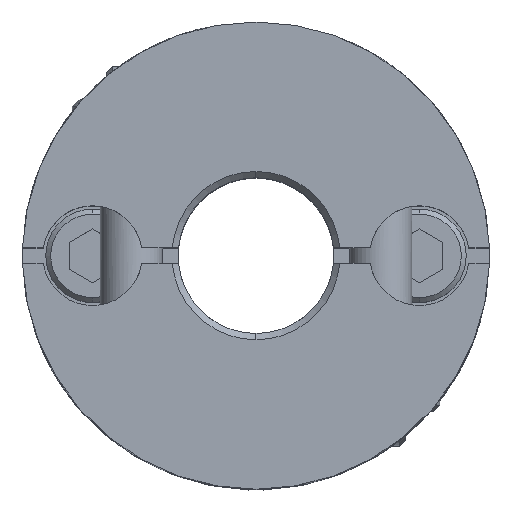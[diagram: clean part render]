
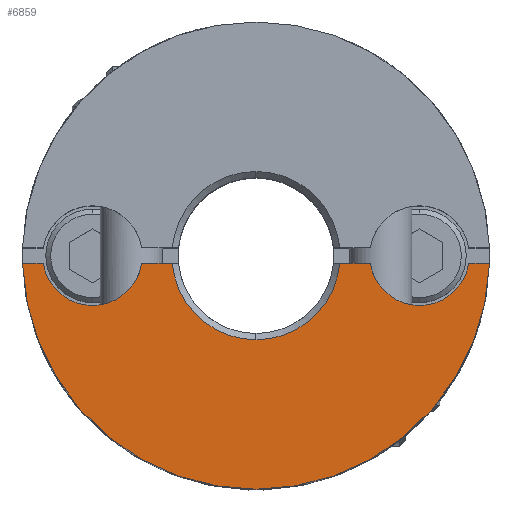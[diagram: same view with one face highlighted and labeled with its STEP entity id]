
A CAD part, top view. The second image highlights one B-rep face of the part: STEP entity #6859.
In plain terms, the highlighted planar face has unit normal (0, 0, 1).
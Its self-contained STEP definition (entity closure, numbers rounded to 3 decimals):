
#622=CARTESIAN_POINT('',(0.,-7.5,8.1));
#623=VERTEX_POINT('',#622);
#630=CARTESIAN_POINT('',(-7.496,-0.25,8.1));
#631=VERTEX_POINT('',#630);
#632=CARTESIAN_POINT('',(0.,0.,8.1));
#633=DIRECTION('',(0.0,0.0,-1.0));
#634=DIRECTION('',(0.0,1.0,0.0));
#635=AXIS2_PLACEMENT_3D('',#632,#633,#634);
#636=CIRCLE('',#635,7.5);
#637=EDGE_CURVE('',#623,#631,#636,.T.);
#983=CARTESIAN_POINT('',(0.,-2.7,8.1));
#984=VERTEX_POINT('',#983);
#1000=CARTESIAN_POINT('',(-2.688,-0.25,8.1));
#1001=VERTEX_POINT('',#1000);
#1015=CARTESIAN_POINT('',(0.,0.,8.1));
#1016=DIRECTION('',(0.0,0.0,1.0));
#1017=DIRECTION('',(0.0,-1.0,0.0));
#1018=AXIS2_PLACEMENT_3D('',#1015,#1016,#1017);
#1019=CIRCLE('',#1018,2.7);
#1020=EDGE_CURVE('',#1001,#984,#1019,.T.);
#1317=CARTESIAN_POINT('',(-5.25,-1.6,8.1));
#1318=VERTEX_POINT('',#1317);
#1334=CARTESIAN_POINT('',(-6.83,-0.25,8.1));
#1335=VERTEX_POINT('',#1334);
#1342=CARTESIAN_POINT('',(-5.25,0.,8.1));
#1343=DIRECTION('',(0.0,0.0,-1.0));
#1344=DIRECTION('',(0.0,1.0,0.0));
#1345=AXIS2_PLACEMENT_3D('',#1342,#1343,#1344);
#1346=CIRCLE('',#1345,1.6);
#1347=EDGE_CURVE('',#1318,#1335,#1346,.T.);
#1687=CARTESIAN_POINT('',(5.25,-1.6,8.1));
#1688=VERTEX_POINT('',#1687);
#1762=CARTESIAN_POINT('',(3.67,-0.25,8.1));
#1763=VERTEX_POINT('',#1762);
#1770=CARTESIAN_POINT('',(5.25,0.,8.1));
#1771=DIRECTION('',(0.0,0.0,-1.0));
#1772=DIRECTION('',(0.0,1.0,0.0));
#1773=AXIS2_PLACEMENT_3D('',#1770,#1771,#1772);
#1774=CIRCLE('',#1773,1.6);
#1775=EDGE_CURVE('',#1688,#1763,#1774,.T.);
#5991=CARTESIAN_POINT('',(6.83,-0.25,8.1));
#5992=VERTEX_POINT('',#5991);
#5993=CARTESIAN_POINT('',(5.25,0.,8.1));
#5994=DIRECTION('',(0.0,0.0,-1.0));
#5995=DIRECTION('',(0.0,1.0,0.0));
#5996=AXIS2_PLACEMENT_3D('',#5993,#5994,#5995);
#5997=CIRCLE('',#5996,1.6);
#5998=EDGE_CURVE('',#5992,#1688,#5997,.T.);
#6407=CARTESIAN_POINT('',(-3.67,-0.25,8.1));
#6408=VERTEX_POINT('',#6407);
#6415=CARTESIAN_POINT('',(-2.688,-0.25,8.1));
#6416=DIRECTION('',(-1.0,0.0,0.0));
#6417=VECTOR('',#6416,0.981);
#6418=LINE('',#6415,#6417);
#6419=EDGE_CURVE('',#1001,#6408,#6418,.T.);
#6531=CARTESIAN_POINT('',(-5.25,0.,8.1));
#6532=DIRECTION('',(0.0,0.0,-1.0));
#6533=DIRECTION('',(0.0,1.0,0.0));
#6534=AXIS2_PLACEMENT_3D('',#6531,#6532,#6533);
#6535=CIRCLE('',#6534,1.6);
#6536=EDGE_CURVE('',#6408,#1318,#6535,.T.);
#6649=CARTESIAN_POINT('',(2.688,-0.25,8.1));
#6650=VERTEX_POINT('',#6649);
#6664=CARTESIAN_POINT('',(3.67,-0.25,8.1));
#6665=DIRECTION('',(-1.0,0.0,0.0));
#6666=VECTOR('',#6665,0.981);
#6667=LINE('',#6664,#6666);
#6668=EDGE_CURVE('',#1763,#6650,#6667,.T.);
#6810=CARTESIAN_POINT('',(0.,0.,8.1));
#6811=DIRECTION('',(0.0,0.0,1.0));
#6812=DIRECTION('',(0.0,-1.0,0.0));
#6813=AXIS2_PLACEMENT_3D('',#6810,#6811,#6812);
#6814=CIRCLE('',#6813,2.7);
#6815=EDGE_CURVE('',#984,#6650,#6814,.T.);
#6822=CARTESIAN_POINT('',(0.,0.682,8.1));
#6823=DIRECTION('',(0.0,0.0,1.0));
#6824=DIRECTION('',(0.0,1.0,0.0));
#6825=AXIS2_PLACEMENT_3D('',#6822,#6823,#6824);
#6826=PLANE('',#6825);
#6827=ORIENTED_EDGE('',*,*,#1020,.F.);
#6828=ORIENTED_EDGE('',*,*,#6419,.T.);
#6829=ORIENTED_EDGE('',*,*,#6536,.T.);
#6830=ORIENTED_EDGE('',*,*,#1347,.T.);
#6831=CARTESIAN_POINT('',(-6.83,-0.25,8.1));
#6832=DIRECTION('',(-1.0,0.0,0.0));
#6833=VECTOR('',#6832,0.665);
#6834=LINE('',#6831,#6833);
#6835=EDGE_CURVE('',#1335,#631,#6834,.T.);
#6836=ORIENTED_EDGE('',*,*,#6835,.T.);
#6837=ORIENTED_EDGE('',*,*,#637,.F.);
#6838=CARTESIAN_POINT('',(7.496,-0.25,8.1));
#6839=VERTEX_POINT('',#6838);
#6840=CARTESIAN_POINT('',(0.,0.,8.1));
#6841=DIRECTION('',(0.0,0.0,-1.0));
#6842=DIRECTION('',(0.0,1.0,0.0));
#6843=AXIS2_PLACEMENT_3D('',#6840,#6841,#6842);
#6844=CIRCLE('',#6843,7.5);
#6845=EDGE_CURVE('',#6839,#623,#6844,.T.);
#6846=ORIENTED_EDGE('',*,*,#6845,.F.);
#6847=CARTESIAN_POINT('',(7.496,-0.25,8.1));
#6848=DIRECTION('',(-1.0,0.0,0.0));
#6849=VECTOR('',#6848,0.665);
#6850=LINE('',#6847,#6849);
#6851=EDGE_CURVE('',#6839,#5992,#6850,.T.);
#6852=ORIENTED_EDGE('',*,*,#6851,.T.);
#6853=ORIENTED_EDGE('',*,*,#5998,.T.);
#6854=ORIENTED_EDGE('',*,*,#1775,.T.);
#6855=ORIENTED_EDGE('',*,*,#6668,.T.);
#6856=ORIENTED_EDGE('',*,*,#6815,.F.);
#6857=EDGE_LOOP('',(#6827,#6828,#6829,#6830,#6836,#6837,#6846,#6852,#6853,#6854,#6855,#6856));
#6858=FACE_OUTER_BOUND('',#6857,.T.);
#6859=ADVANCED_FACE('',(#6858),#6826,.T.);
